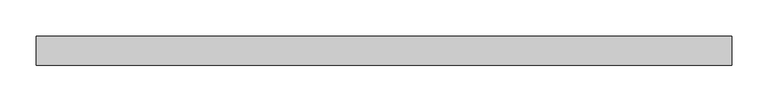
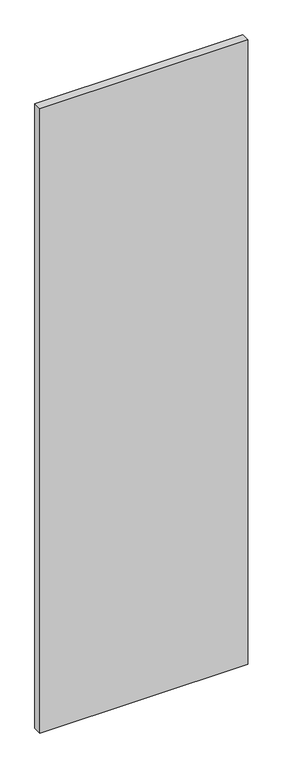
"""IFC4 building model written with IfcOpenShell, lengths in millimetres: plate geometry, Vitré."""

from ifc_helpers import new_model, si_unit, origin, origin_with_axes, place, context, project, spatial, polyline, outline, extrude, source, transform, mapped, element, save


def plate_91a5c058(model_context):
    return source(origin(), model_context, "Body", "SweptSolid", [
        extrude(outline(polyline([(-479.4062502, -20.0), (-479.4062502, 20.0), (479.4062502, 20.0), (479.4062502, -20.0), (-479.4062502, -20.0)])), origin_with_axes(), (0.0, 0.0, 1.0), 3042.625),
    ])


if __name__ == "__main__":
    model = new_model("IFC4")
    model_context = context("Model", 3, world=origin())
    ifc_project = project(units=[si_unit("LENGTHUNIT", "METRE", prefix="MILLI")], contexts=[model_context])
    site = spatial("IfcSite", under=ifc_project)
    building = spatial("IfcBuilding", under=site)
    placement = place(None, origin())
    plate_shape = plate_91a5c058(model_context)
    element("IfcPlate", 1, ObjectType="Vitré", at=placement, inside=building, context=model_context, shape_type="MappedRepresentation", body=[
        mapped(plate_shape, transform((0.0, 0.0, 0.0), x_axis=(1.0, 0.0, 0.0), y_axis=(0.0, 1.0, 0.0), z_axis=(0.0, 0.0, 1.0))),
    ])
    save(model, "model.ifc")
